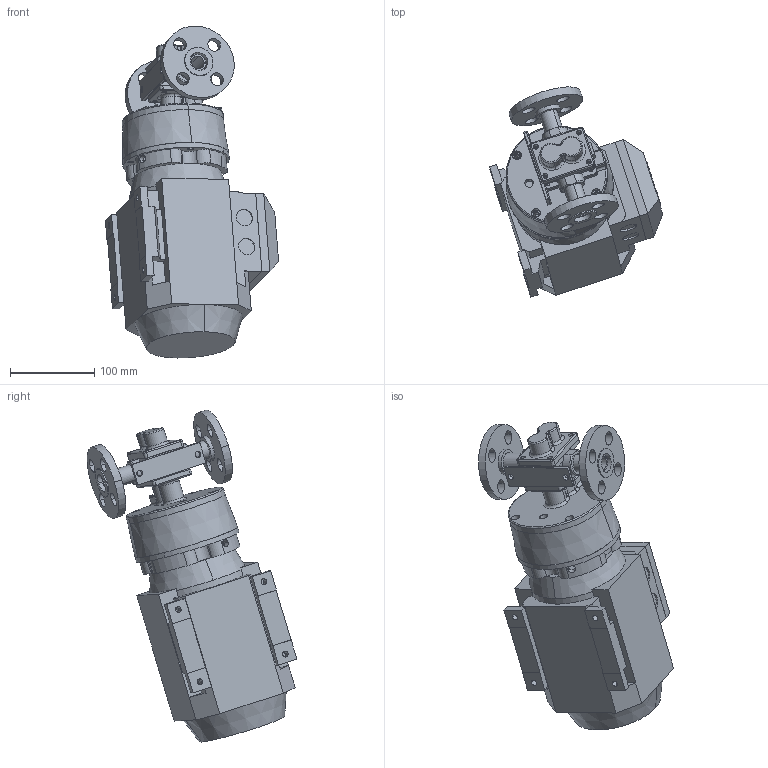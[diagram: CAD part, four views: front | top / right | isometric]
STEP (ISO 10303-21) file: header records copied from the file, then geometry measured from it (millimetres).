
FILE_DESCRIPTION (( 'STEP AP214' ), '1' );
FILE_NAME ('GMC4 FLNG IEC71 MOTOR.STEP', '2025-08-29T17:30:19', ( '' ), ( '' ), 'SwSTEP 2.0', 'SolidWorks 2024', '' );
FILE_SCHEMA (( 'AUTOMOTIVE_DESIGN' ));
Length unit declared in the file: inch
Products named in the file (1): GMC4 FLNG IEC71 MOTOR
Bounding box: 205.83 x 249.3 x 394.44 mm (x, y, z)
Volume: 3958535.4 mm3; surface area: 358562.9 mm2
Topology: 10 solids, 10 shells, 845 faces, 2140 edges, 1351 vertices
Faces by surface type: cylinder 400, plane 290, cone 70, torus 47, bspline 24, sphere 14
Entity records: 27681 total; most frequent: CARTESIAN_POINT 6534, DIRECTION 4631, ORIENTED_EDGE 4220, EDGE_CURVE 2110, AXIS2_PLACEMENT_3D 1806, VERTEX_POINT 1351, EDGE_LOOP 1031, VECTOR 1019
